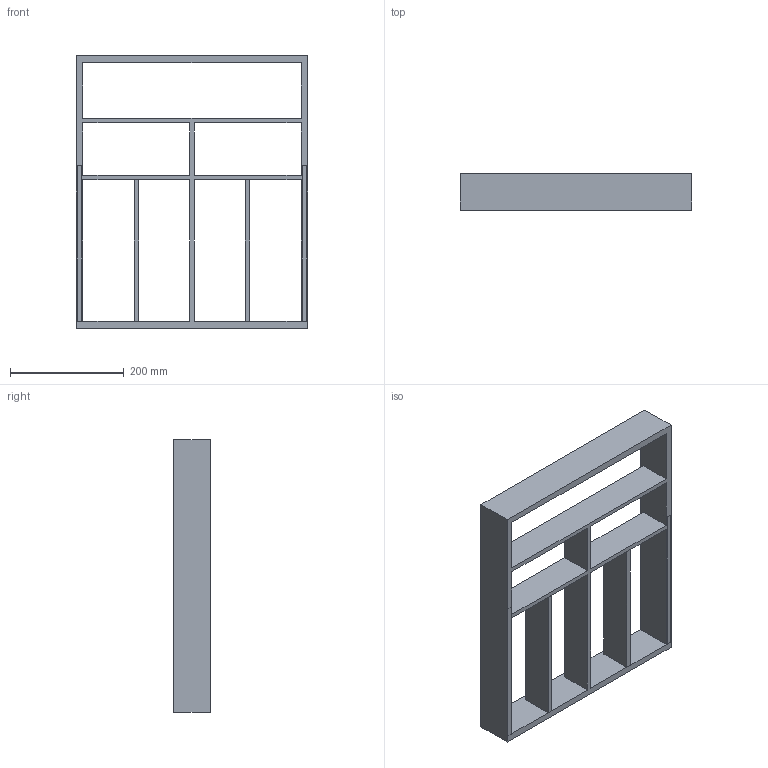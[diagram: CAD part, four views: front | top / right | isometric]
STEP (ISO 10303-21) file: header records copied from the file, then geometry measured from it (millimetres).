
FILE_DESCRIPTION (( 'STEP AP214' ), '1' );
FILE_NAME ('Vario Besteck NL500_B500_16 mm_Alu.step', '2010-11-04T08:33:17', ( 'grass' ), ( '' ), 'SwSTEP 2.0', 'SolidWorks 2010', '' );
FILE_SCHEMA (( 'AUTOMOTIVE_DESIGN' ));
Length unit declared in the file: millimetre
Products named in the file (1): Vario Besteck NL500_B500_16 mm_Alu
Bounding box: 408 x 65 x 479 mm (x, y, z)
Volume: 2328960 mm3; surface area: 545954 mm2
Topology: 5 solids, 5 shells, 46 faces, 120 edges, 80 vertices
Faces by surface type: plane 46
Entity records: 1474 total; most frequent: CARTESIAN_POINT 247, ORIENTED_EDGE 240, DIRECTION 214, EDGE_CURVE 120, VECTOR 120, LINE 120, VERTEX_POINT 80, EDGE_LOOP 52
